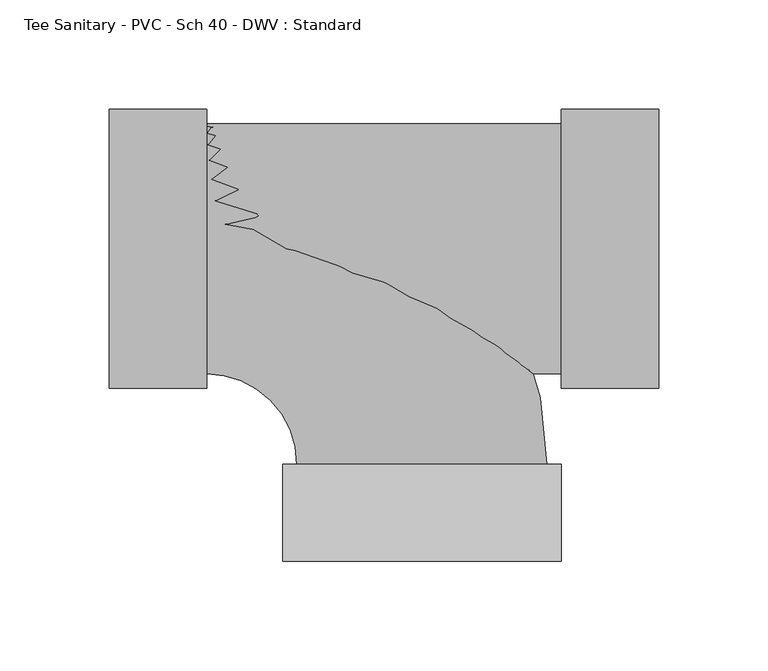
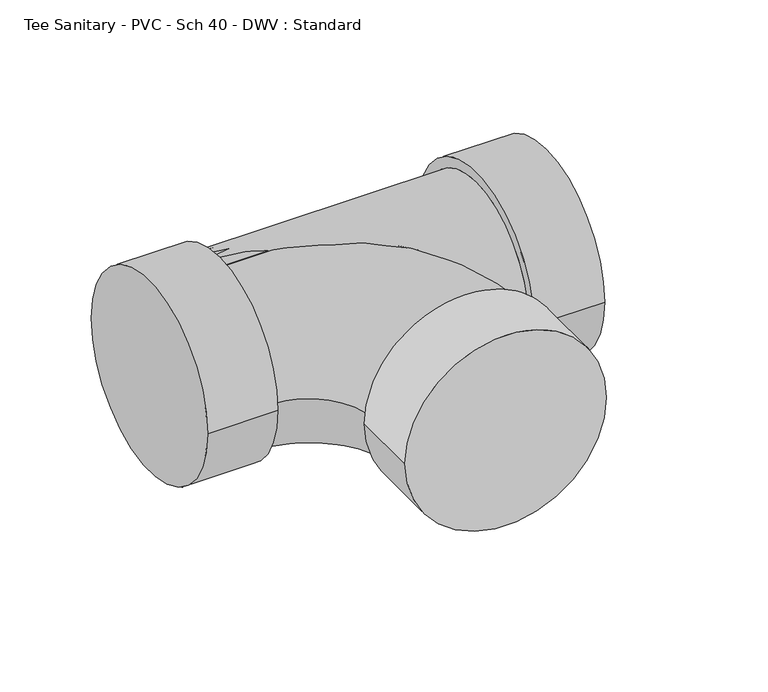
"""IFC4 building model written with IfcOpenShell, lengths in millimetres: pipe fitting geometry, Tee Sanitary - PVC - Sch 40 - DWV : Standard."""

from ifc_helpers import new_model, si_unit, point, frame, origin, place, context, project, spatial, circle_curve, ellipse_curve, trimmed, source, transform, mapped, element, save
from ifc_brep_helpers import plane_surface, cylinder_surface, revolved_surface, advanced_brep


def tee_sanitary_pvc_sch_40_dwv_standard_6eba9932(model_context):
    return source(origin(), model_context, "Body", "AdvancedBrep", [
        advanced_brep(
        [(-98.425, -57.15, 0.0), (-98.425, 57.15, 0.0), (-57.1132308, -98.4463407, 0.0), (57.1867613, -98.4036456, 0.0), (63.8073645, -142.8511756, 0.0), (-63.7006266, -142.8988044, 0.0), (63.7907608, -98.4011787, 0.0), (-63.7172303, -98.4488075, 0.0)],
        [
            (0, 1, circle_curve(frame((-98.425, 0.0, 0.0), z_axis=(-1.0, 0.0, 0.0), x_axis=(0.0, 1.0, 0.0)), 57.15)),
            (1, 0, circle_curve(frame((-98.425, 0.0, 0.0), z_axis=(-1.0, 0.0, 0.0), x_axis=(0.0, 1.0, 0.0)), 57.15)),
            (0, 2, circle_curve(frame((-98.425, -98.4617721, 0.0), z_axis=(0.0, 0.0, -1.0), x_axis=(0.0, 1.0, 0.0)), 41.3117721)),
            (2, 3, circle_curve(frame((0.0367652, -98.4249931, 0.0), z_axis=(-0.0003735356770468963, 0.9999999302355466, 0.0), x_axis=(0.9999999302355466, 0.0003735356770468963, 0.0)), 57.15)),
            (3, 1, circle_curve(frame((-98.425, -98.4617721, 0.0), z_axis=(0.0, 0.0, 1.0), x_axis=(0.0, 1.0, 0.0)), 155.6117721)),
            (3, 2, circle_curve(frame((0.0367652, -98.4249931, 0.0), z_axis=(-0.00037353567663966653, 0.9999999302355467, 0.0), x_axis=(0.9999999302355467, 0.00037353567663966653, 0.0)), 57.15)),
            (4, 5, circle_curve(frame((0.0533689, -142.87499, 0.0), z_axis=(0.0003735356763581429, -0.9999999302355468, 0.0), x_axis=(-0.9999999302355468, -0.0003735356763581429, 0.0)), 63.754)),
            (5, 4, circle_curve(frame((0.0533689, -142.87499, 0.0), z_axis=(0.0003735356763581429, -0.9999999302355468, 0.0), x_axis=(-0.9999999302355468, -0.0003735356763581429, 0.0)), 63.754)),
            (6, 7, circle_curve(frame((0.0367652, -98.4249931, 0.0), z_axis=(-0.0003735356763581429, 0.9999999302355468, 0.0), x_axis=(-0.9999999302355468, -0.0003735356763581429, 0.0)), 63.754)),
            (7, 6, circle_curve(frame((0.0367652, -98.4249931, 0.0), z_axis=(-0.0003735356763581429, 0.9999999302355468, 0.0), x_axis=(-0.9999999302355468, -0.0003735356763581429, 0.0)), 63.754)),
            (4, 6),
            (7, 5),
        ],
        [
            plane_surface(frame((-98.425, 0.0, 0.0), z_axis=(-1.0, 0.0, 0.0), x_axis=(0.0, 0.0, 1.0))),
            revolved_surface(trimmed(ellipse_curve(frame((-98.425, 0.0, 0.0), z_axis=(-1.0, 0.0, 0.0), x_axis=(0.0, 1.0, 0.0)), 57.15, 57.15), [point((-98.425, -57.15, 0.0))], [point((-98.425, 57.15, 0.0))], True, "CARTESIAN"), (-98.425, -98.4617721, 0.0), (0.0, 0.0, -1.0)),
            revolved_surface(trimmed(ellipse_curve(frame((-98.425, 0.0, 0.0), z_axis=(-1.0, 0.0, 0.0), x_axis=(0.0, 1.0, 0.0)), 57.15, 57.15), [point((-98.425, 57.15, 0.0))], [point((-98.425, -57.15, 0.0))], True, "CARTESIAN"), (-98.425, -98.4617721, 0.0), (0.0, 0.0, -1.0)),
            plane_surface(frame((0.0533689, -142.87499, 0.0), z_axis=(0.00037353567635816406, -0.9999999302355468, 0.0), x_axis=(0.0, 0.0, 1.0))),
            plane_surface(frame((0.0367652, -98.4249931, 0.0), z_axis=(-0.0003735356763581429, 0.9999999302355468, 0.0), x_axis=(0.0, 0.0, 1.0))),
            cylinder_surface(frame((0.0533689, -142.87499, 0.0), z_axis=(0.0003735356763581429, -0.9999999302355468, 0.0), x_axis=(-0.9999999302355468, -0.0003735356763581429, 0.0)), 63.754),
        ],
        [
            (0, [[1, 2]]),
            (1, [[-1, 3, 4, 5]]),
            (2, [[-2, -5, 6, -3]]),
            (3, [[7, 8]]),
            (4, [[9, 10], [-4, -6]]),
            (5, [[-7, 11, -10, 12]]),
            (5, [[-8, -12, -9, -11]]),
        ],
    ),
        advanced_brep(
        [(-98.425, -57.15, 0.0), (63.7907608, -57.15, 0.0), (63.7907608, 57.15, 0.0), (-98.425, 57.15, 0.0), (63.7907608, -63.754, 0.0), (63.7907608, 63.754, 0.0), (108.2407608, -63.754, 0.0), (108.2407608, 63.754, 0.0), (-142.875, -63.754, 0.0), (-142.875, 63.754, 0.0), (-98.425, -63.754, 0.0), (-98.425, 63.754, 0.0)],
        [
            (0, 1),
            (1, 2, circle_curve(frame((63.7907608, 0.0, 0.0), z_axis=(-1.0, 0.0, 0.0), x_axis=(0.0, 1.0, 0.0)), 57.15)),
            (2, 3),
            (3, 0, circle_curve(frame((-98.425, 0.0, 0.0), z_axis=(1.0, 0.0, 0.0), x_axis=(0.0, 1.0, 0.0)), 57.15)),
            (0, 3, circle_curve(frame((-98.425, 0.0, 0.0), z_axis=(1.0, 0.0, 0.0), x_axis=(0.0, 1.0, 0.0)), 57.15)),
            (2, 1, circle_curve(frame((63.7907608, 0.0, 0.0), z_axis=(-1.0, 0.0, 0.0), x_axis=(0.0, 1.0, 0.0)), 57.15)),
            (4, 5, circle_curve(frame((63.7907608, 0.0, 0.0), z_axis=(-1.0, 0.0, 0.0), x_axis=(0.0, 1.0, 0.0)), 63.754)),
            (5, 4, circle_curve(frame((63.7907608, 0.0, 0.0), z_axis=(-1.0, 0.0, 0.0), x_axis=(0.0, 1.0, 0.0)), 63.754)),
            (6, 7, circle_curve(frame((108.2407608, 0.0, 0.0), z_axis=(1.0, 0.0, 0.0), x_axis=(0.0, 1.0, 0.0)), 63.754)),
            (7, 6, circle_curve(frame((108.2407608, 0.0, 0.0), z_axis=(1.0, 0.0, 0.0), x_axis=(0.0, 1.0, 0.0)), 63.754)),
            (4, 6),
            (7, 5),
            (8, 9, circle_curve(frame((-142.875, 0.0, 0.0), z_axis=(-1.0, 0.0, 0.0), x_axis=(0.0, 1.0, 0.0)), 63.754)),
            (9, 8, circle_curve(frame((-142.875, 0.0, 0.0), z_axis=(-1.0, 0.0, 0.0), x_axis=(0.0, 1.0, 0.0)), 63.754)),
            (10, 11, circle_curve(frame((-98.425, 0.0, 0.0), z_axis=(1.0, 0.0, 0.0), x_axis=(0.0, 1.0, 0.0)), 63.754)),
            (11, 10, circle_curve(frame((-98.425, 0.0, 0.0), z_axis=(1.0, 0.0, 0.0), x_axis=(0.0, 1.0, 0.0)), 63.754)),
            (8, 10),
            (11, 9),
        ],
        [
            cylinder_surface(frame((-98.425, 0.0, 0.0), z_axis=(-1.0, 0.0, 0.0), x_axis=(0.0, 1.0, 0.0)), 57.15),
            plane_surface(frame((63.7907608, 0.0, 0.0), z_axis=(-1.0, 0.0, 0.0), x_axis=(0.0, 0.0, 1.0))),
            plane_surface(frame((108.2407608, 0.0, 0.0), z_axis=(1.0, 0.0, 0.0), x_axis=(0.0, 0.0, 1.0))),
            cylinder_surface(frame((63.7907608, 0.0, 0.0), z_axis=(-1.0, 0.0, 0.0), x_axis=(0.0, 1.0, 0.0)), 63.754),
            plane_surface(frame((-142.875, 0.0, 0.0), z_axis=(-1.0, 0.0, 0.0), x_axis=(0.0, 0.0, 1.0))),
            plane_surface(frame((-98.425, 0.0, 0.0), z_axis=(1.0, 0.0, 0.0), x_axis=(0.0, 0.0, 1.0))),
            cylinder_surface(frame((-142.875, 0.0, 0.0), z_axis=(-1.0, 0.0, 0.0), x_axis=(0.0, 1.0, 0.0)), 63.754),
        ],
        [
            (0, [[1, 2, 3, 4]]),
            (0, [[-1, 5, -3, 6]]),
            (1, [[7, 8], [-2, -6]]),
            (2, [[9, 10]]),
            (3, [[-7, 11, -10, 12]]),
            (3, [[-8, -12, -9, -11]]),
            (4, [[13, 14]]),
            (5, [[15, 16], [-4, -5]]),
            (6, [[-13, 17, -16, 18]]),
            (6, [[-14, -18, -15, -17]]),
        ],
    ),
    ])


if __name__ == "__main__":
    model = new_model("IFC4")
    model_context = context("Model", 3, world=origin())
    ifc_project = project(units=[si_unit("LENGTHUNIT", "METRE", prefix="MILLI")], contexts=[model_context])
    site = spatial("IfcSite", under=ifc_project)
    building = spatial("IfcBuilding", under=site)
    placement = place(None, origin())
    tee_sanitary_pvc_sch_40_dwv_standard_shape = tee_sanitary_pvc_sch_40_dwv_standard_6eba9932(model_context)
    element("IfcPipeFitting", 1, ObjectType="Tee Sanitary - PVC - Sch 40 - DWV : Standard", at=placement, inside=building, context=model_context, shape_type="MappedRepresentation", body=[
        mapped(tee_sanitary_pvc_sch_40_dwv_standard_shape, transform((0.0, 0.0, 0.0), x_axis=(1.0, 0.0, 0.0), y_axis=(0.0, 1.0, 0.0), z_axis=(0.0, 0.0, 1.0))),
    ])
    save(model, "model.ifc")
